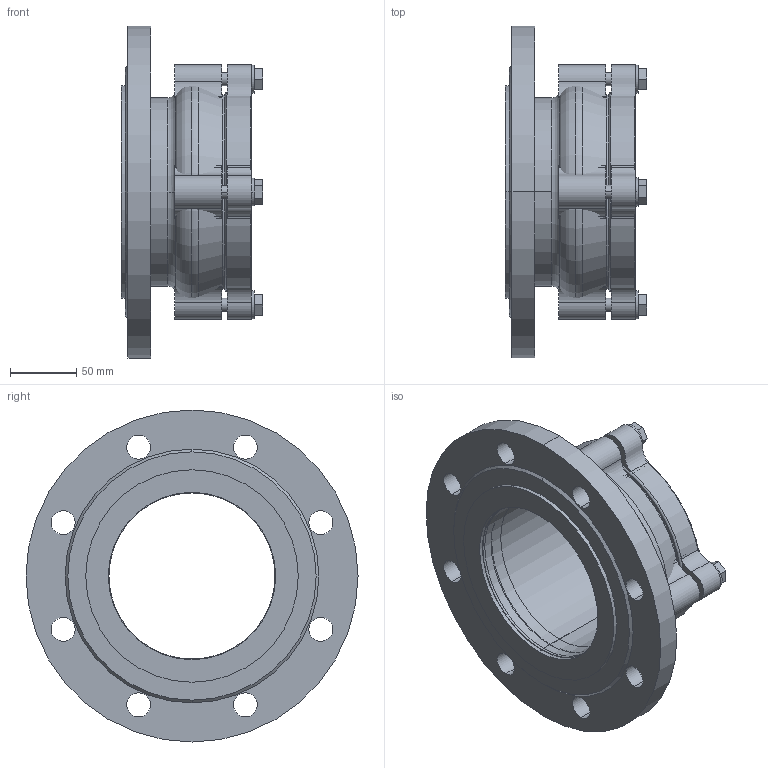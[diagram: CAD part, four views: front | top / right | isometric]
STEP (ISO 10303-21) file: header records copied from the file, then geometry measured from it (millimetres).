
FILE_DESCRIPTION(('STEP AP214'),'1');
FILE_NAME('U:/VDI-Daten/7200-(0400)/7200_PN16_DN125_125.STP','2012-06-15T09:49:49',(' '),(' '),'Spatial InterOp 3D',' ',' ');
FILE_SCHEMA(('automotive_design'));
Length unit declared in the file: millimetre
Products named in the file (26): 3D-Objekt
Bounding box: 106.4 x 250 x 250 mm (x, y, z)
Volume: 1264993 mm3; surface area: 350859.7 mm2
Topology: 26 solids, 26 shells, 205 faces, 456 edges, 304 vertices
Faces by surface type: cylinder 94, plane 93, torus 12, cone 6
Entity records: 8082 total; most frequent: DIRECTION 1154, CARTESIAN_POINT 991, ORIENTED_EDGE 912, AXIS2_PLACEMENT_3D 467, EDGE_CURVE 456, VERTEX_POINT 304, CIRCLE 236, EDGE_LOOP 234
